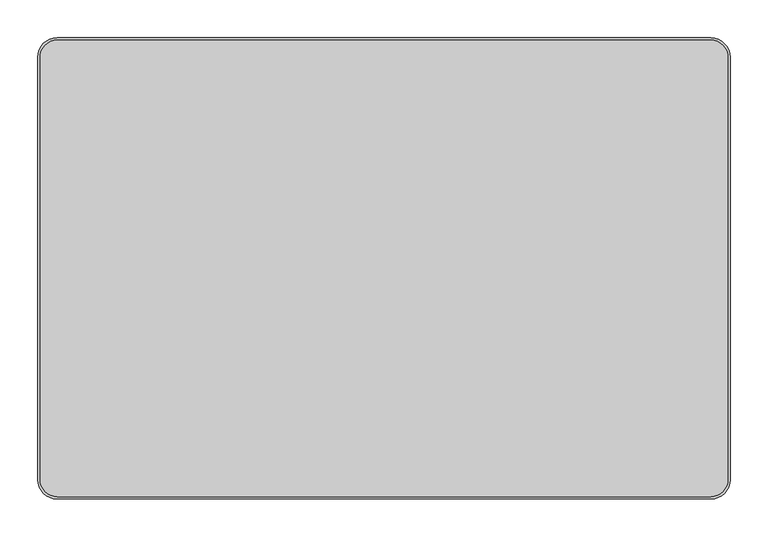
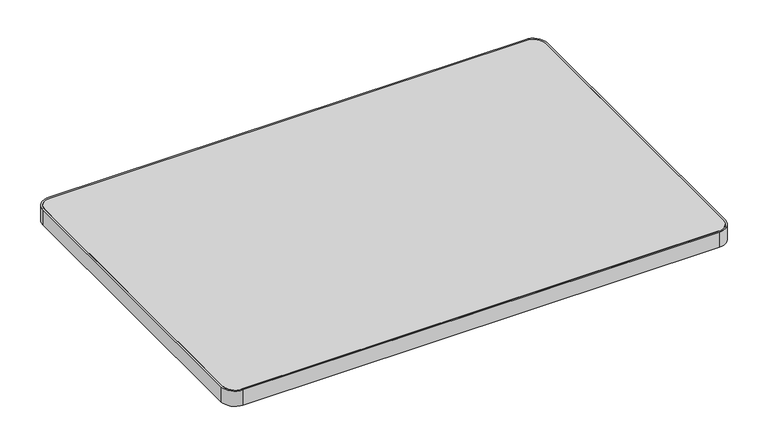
"""IFC4 building model written with IfcOpenShell, lengths in millimetres: furniture geometry, Steelcase - Groupwork - Table - Top - Rectangular : 24D x 36W - HPL."""

from ifc_helpers import new_model, si_unit, point, frame, frame_2d, origin, place, context, project, spatial, polyline, circle_curve, trimmed, segment, composite_curve, outline, extrude, source, transform, mapped, element, save


def furniture_0da8b664(model_context):
    return source(origin(), model_context, "Body", "SweptSolid", [
        extrude(outline(composite_curve([segment(polyline([(-459.74, 301.8), (402.94, 301.8)]), True, "CONTINUOUS"), segment(trimmed(circle_curve(frame_2d((402.94, 278.94)), 22.86), [point((402.94, 301.8))], [point((425.8, 278.94))], False, "CARTESIAN"), True, "CONTINUOUS"), segment(polyline([(425.8, 278.94), (425.8, -278.94)]), True, "CONTINUOUS"), segment(trimmed(circle_curve(frame_2d((402.94, -278.94)), 22.86), [point((425.8, -278.94))], [point((402.94, -301.8))], False, "CARTESIAN"), True, "CONTINUOUS"), segment(polyline([(402.94, -301.8), (-459.74, -301.8)]), True, "CONTINUOUS"), segment(trimmed(circle_curve(frame_2d((-459.74, -278.94)), 22.86), [point((-459.74, -301.8))], [point((-482.6, -278.94))], False, "CARTESIAN"), True, "CONTINUOUS"), segment(polyline([(-482.6, -278.94), (-482.6, 278.94)]), True, "CONTINUOUS"), segment(trimmed(circle_curve(frame_2d((-459.74, 278.94)), 22.86), [point((-482.6, 278.94))], [point((-459.74, 301.8))], False, "CARTESIAN"), True, "CONTINUOUS")], self_intersect=False)), frame((0.0, 0.0, 694.944), z_axis=(0.0, 0.0, 1.0), x_axis=(1.0, 0.0, 0.0)), (0.0, 0.0, 1.0), 28.956),
        extrude(outline(composite_curve([segment(trimmed(circle_curve(frame_2d((403.3385373, 279.3385373)), 25.4614627), [point((403.3385373, 304.8))], [point((428.8, 279.3385373))], False, "CARTESIAN"), True, "CONTINUOUS"), segment(polyline([(428.8, 279.3385373), (428.8, -279.4211297)]), True, "CONTINUOUS"), segment(trimmed(circle_curve(frame_2d((403.4211297, -279.4211297)), 25.3788703), [point((428.8, -279.4211297))], [point((403.4211297, -304.8))], False, "CARTESIAN"), True, "CONTINUOUS"), segment(polyline([(403.4211297, -304.8), (-460.2, -304.8)]), True, "CONTINUOUS"), segment(trimmed(circle_curve(frame_2d((-460.2, -279.4)), 25.4), [point((-460.2, -304.8))], [point((-485.6, -279.4))], False, "CARTESIAN"), True, "CONTINUOUS"), segment(polyline([(-485.6, -279.4), (-485.6, 279.4)]), True, "CONTINUOUS"), segment(trimmed(circle_curve(frame_2d((-460.2, 279.4)), 25.4), [point((-485.6, 279.4))], [point((-460.2, 304.8))], False, "CARTESIAN"), True, "CONTINUOUS"), segment(polyline([(-460.2, 304.8), (403.3385373, 304.8)]), True, "CONTINUOUS")], self_intersect=False), holes=[composite_curve([segment(polyline([(403.0064662, 301.8), (-459.74, 301.8)]), True, "CONTINUOUS"), segment(trimmed(circle_curve(frame_2d((-459.74, 278.94)), 22.86), [point((-459.74, 301.8))], [point((-482.6, 278.94))], True, "CARTESIAN"), True, "CONTINUOUS"), segment(polyline([(-482.6, 278.94), (-482.6, -278.94)]), True, "CONTINUOUS"), segment(trimmed(circle_curve(frame_2d((-459.74, -278.94)), 22.86), [point((-482.6, -278.94))], [point((-459.74, -301.8))], True, "CARTESIAN"), True, "CONTINUOUS"), segment(polyline([(-459.74, -301.8), (402.773488, -301.8)]), True, "CONTINUOUS"), segment(trimmed(circle_curve(frame_2d((402.773488, -278.773488)), 23.026512), [point((402.773488, -301.8))], [point((425.8, -278.773488))], True, "CARTESIAN"), True, "CONTINUOUS"), segment(polyline([(425.8, -278.773488), (425.8, 279.0064662)]), True, "CONTINUOUS"), segment(trimmed(circle_curve(frame_2d((403.0064662, 279.0064662)), 22.7935338), [point((425.8, 279.0064662))], [point((403.0064662, 301.8))], True, "CARTESIAN"), True, "CONTINUOUS")], self_intersect=False)]), frame((0.0, 0.0, 694.944), z_axis=(0.0, 0.0, 1.0), x_axis=(1.0, 0.0, 0.0)), (0.0, 0.0, 1.0), 28.956),
    ])


if __name__ == "__main__":
    model = new_model("IFC4")
    model_context = context("Model", 3, world=origin())
    ifc_project = project(units=[si_unit("LENGTHUNIT", "METRE", prefix="MILLI")], contexts=[model_context])
    site = spatial("IfcSite", under=ifc_project)
    building = spatial("IfcBuilding", under=site)
    placement = place(None, origin())
    furniture_shape = furniture_0da8b664(model_context)
    element("IfcFurniture", 1, ObjectType="Steelcase - Groupwork - Table - Top - Rectangular : 24D x 36W - HPL", at=placement, inside=building, context=model_context, shape_type="MappedRepresentation", body=[
        mapped(furniture_shape, transform((0.0, 0.0, 0.0), x_axis=(1.0, 0.0, 0.0), y_axis=(0.0, 1.0, 0.0), z_axis=(0.0, 0.0, 1.0))),
    ])
    save(model, "model.ifc")
